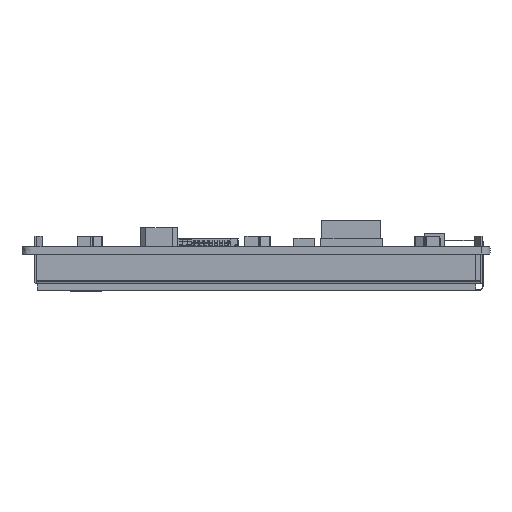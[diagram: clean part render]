
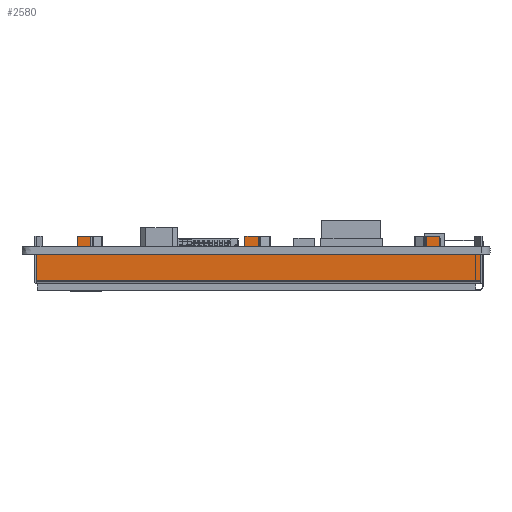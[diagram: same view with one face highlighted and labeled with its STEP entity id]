
A CAD part, left-side view. The second image highlights one B-rep face of the part: STEP entity #2580.
In plain terms, the highlighted planar face has unit normal (-1, 0, 0).
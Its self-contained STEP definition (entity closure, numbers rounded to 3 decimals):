
#2580=ADVANCED_FACE('',(#4897),#3631,.F.);
#3631=PLANE('',#28226);
#4897=FACE_OUTER_BOUND('',#6287,.T.);
#6287=EDGE_LOOP('',(#13445,#13446,#13447,#13448,#13449,#13450,#13451,#13452,
#13453,#13454,#13455,#13456,#13457,#13458,#13459,#13460,#13461,#13462,#13463));
#13445=ORIENTED_EDGE('',*,*,#20087,.T.);
#13446=ORIENTED_EDGE('',*,*,#20098,.T.);
#13447=ORIENTED_EDGE('',*,*,#20099,.F.);
#13448=ORIENTED_EDGE('',*,*,#20100,.T.);
#13449=ORIENTED_EDGE('',*,*,#20101,.F.);
#13450=ORIENTED_EDGE('',*,*,#20085,.T.);
#13451=ORIENTED_EDGE('',*,*,#20102,.T.);
#13452=ORIENTED_EDGE('',*,*,#20103,.F.);
#13453=ORIENTED_EDGE('',*,*,#20104,.F.);
#13454=ORIENTED_EDGE('',*,*,#20105,.T.);
#13455=ORIENTED_EDGE('',*,*,#20093,.T.);
#13456=ORIENTED_EDGE('',*,*,#20106,.T.);
#13457=ORIENTED_EDGE('',*,*,#20107,.F.);
#13458=ORIENTED_EDGE('',*,*,#20108,.F.);
#13459=ORIENTED_EDGE('',*,*,#20109,.T.);
#13460=ORIENTED_EDGE('',*,*,#20097,.T.);
#13461=ORIENTED_EDGE('',*,*,#20110,.F.);
#13462=ORIENTED_EDGE('',*,*,#20111,.F.);
#13463=ORIENTED_EDGE('',*,*,#20112,.T.);
#16558=VERTEX_POINT('',#42179);
#16560=VERTEX_POINT('',#42183);
#16561=VERTEX_POINT('',#42187);
#16563=VERTEX_POINT('',#42190);
#16566=VERTEX_POINT('',#42197);
#16568=VERTEX_POINT('',#42201);
#16570=VERTEX_POINT('',#42206);
#16572=VERTEX_POINT('',#42210);
#16573=VERTEX_POINT('',#42214);
#16574=VERTEX_POINT('',#42216);
#16575=VERTEX_POINT('',#42218);
#16576=VERTEX_POINT('',#42221);
#16577=VERTEX_POINT('',#42223);
#16578=VERTEX_POINT('',#42225);
#16579=VERTEX_POINT('',#42228);
#16580=VERTEX_POINT('',#42230);
#16581=VERTEX_POINT('',#42232);
#16582=VERTEX_POINT('',#42235);
#16583=VERTEX_POINT('',#42237);
#20085=EDGE_CURVE('',#16558,#16560,#23134,.T.);
#20087=EDGE_CURVE('',#16563,#16561,#23136,.T.);
#20093=EDGE_CURVE('',#16566,#16568,#23142,.T.);
#20097=EDGE_CURVE('',#16570,#16572,#23146,.T.);
#20098=EDGE_CURVE('',#16561,#16573,#23147,.T.);
#20099=EDGE_CURVE('',#16574,#16573,#23148,.T.);
#20100=EDGE_CURVE('',#16574,#16575,#23149,.T.);
#20101=EDGE_CURVE('',#16558,#16575,#23150,.T.);
#20102=EDGE_CURVE('',#16560,#16576,#23151,.T.);
#20103=EDGE_CURVE('',#16577,#16576,#23152,.T.);
#20104=EDGE_CURVE('',#16578,#16577,#23153,.T.);
#20105=EDGE_CURVE('',#16578,#16566,#23154,.T.);
#20106=EDGE_CURVE('',#16568,#16579,#23155,.T.);
#20107=EDGE_CURVE('',#16580,#16579,#23156,.T.);
#20108=EDGE_CURVE('',#16581,#16580,#23157,.T.);
#20109=EDGE_CURVE('',#16581,#16570,#23158,.T.);
#20110=EDGE_CURVE('',#16582,#16572,#23159,.T.);
#20111=EDGE_CURVE('',#16583,#16582,#23160,.T.);
#20112=EDGE_CURVE('',#16583,#16563,#23161,.T.);
#23134=LINE('',#42184,#26119);
#23136=LINE('',#42189,#26121);
#23142=LINE('',#42202,#26127);
#23146=LINE('',#42211,#26131);
#23147=LINE('',#42213,#26132);
#23148=LINE('',#42215,#26133);
#23149=LINE('',#42217,#26134);
#23150=LINE('',#42219,#26135);
#23151=LINE('',#42220,#26136);
#23152=LINE('',#42222,#26137);
#23153=LINE('',#42224,#26138);
#23154=LINE('',#42226,#26139);
#23155=LINE('',#42227,#26140);
#23156=LINE('',#42229,#26141);
#23157=LINE('',#42231,#26142);
#23158=LINE('',#42233,#26143);
#23159=LINE('',#42234,#26144);
#23160=LINE('',#42236,#26145);
#23161=LINE('',#42238,#26146);
#26119=VECTOR('',#34287,1.);
#26121=VECTOR('',#34291,1.);
#26127=VECTOR('',#34299,1.);
#26131=VECTOR('',#34305,1.);
#26132=VECTOR('',#34308,1.);
#26133=VECTOR('',#34309,1.);
#26134=VECTOR('',#34310,1.);
#26135=VECTOR('',#34311,1.);
#26136=VECTOR('',#34312,1.);
#26137=VECTOR('',#34313,1.);
#26138=VECTOR('',#34314,1.);
#26139=VECTOR('',#34315,1.);
#26140=VECTOR('',#34316,1.);
#26141=VECTOR('',#34317,1.);
#26142=VECTOR('',#34318,1.);
#26143=VECTOR('',#34319,1.);
#26144=VECTOR('',#34320,1.);
#26145=VECTOR('',#34321,1.);
#26146=VECTOR('',#34322,1.);
#28226=AXIS2_PLACEMENT_3D('',#42239,#34323,#34324);
#34287=DIRECTION('',(0.,1.,0.));
#34291=DIRECTION('',(0.,1.,0.));
#34299=DIRECTION('',(0.,1.,0.));
#34305=DIRECTION('',(0.,1.,0.));
#34308=DIRECTION('',(0.,0.,1.));
#34309=DIRECTION('',(0.,-1.,0.));
#34310=DIRECTION('',(0.,0.,-1.));
#34311=DIRECTION('',(0.,0.,1.));
#34312=DIRECTION('',(0.,0.,1.));
#34313=DIRECTION('',(0.,0.,-1.));
#34314=DIRECTION('',(0.,-1.,0.));
#34315=DIRECTION('',(0.,0.,-1.));
#34316=DIRECTION('',(0.,0.,1.));
#34317=DIRECTION('',(0.,0.,-1.));
#34318=DIRECTION('',(0.,-1.,0.));
#34319=DIRECTION('',(0.,0.,-1.));
#34320=DIRECTION('',(0.,0.,1.));
#34321=DIRECTION('',(0.,1.,0.));
#34322=DIRECTION('',(0.,0.,1.));
#34323=DIRECTION('',(1.,0.,0.));
#34324=DIRECTION('',(0.,-1.,0.));
#42179=CARTESIAN_POINT('',(435.624,-41.014,-1.6));
#42183=CARTESIAN_POINT('',(435.624,-3.188,-1.6));
#42184=CARTESIAN_POINT('',(435.624,-53.245,-1.6));
#42187=CARTESIAN_POINT('',(435.624,-44.038,-1.6));
#42189=CARTESIAN_POINT('',(435.624,-53.245,-1.6));
#42190=CARTESIAN_POINT('',(435.624,-53.245,-1.6));
#42197=CARTESIAN_POINT('',(435.624,-0.18,-1.6));
#42201=CARTESIAN_POINT('',(435.624,34.5,-1.6));
#42202=CARTESIAN_POINT('',(435.624,-53.245,-1.6));
#42206=CARTESIAN_POINT('',(435.624,37.54,-1.6));
#42210=CARTESIAN_POINT('',(435.624,46.775,-1.6));
#42211=CARTESIAN_POINT('',(435.624,-53.245,-1.6));
#42213=CARTESIAN_POINT('',(435.624,-44.038,-1.6));
#42214=CARTESIAN_POINT('',(435.624,-44.038,2.4));
#42215=CARTESIAN_POINT('',(435.624,-41.014,2.4));
#42216=CARTESIAN_POINT('',(435.624,-41.014,2.4));
#42217=CARTESIAN_POINT('',(435.624,-41.014,2.4));
#42218=CARTESIAN_POINT('',(435.624,-41.014,0.));
#42219=CARTESIAN_POINT('',(435.624,-41.014,-1.6));
#42220=CARTESIAN_POINT('',(435.624,-3.188,-1.6));
#42221=CARTESIAN_POINT('',(435.624,-3.188,0.));
#42222=CARTESIAN_POINT('',(435.624,-3.188,2.4));
#42223=CARTESIAN_POINT('',(435.624,-3.188,2.4));
#42224=CARTESIAN_POINT('',(435.624,-0.18,2.4));
#42225=CARTESIAN_POINT('',(435.624,-0.18,2.4));
#42226=CARTESIAN_POINT('',(435.624,-0.18,2.4));
#42227=CARTESIAN_POINT('',(435.624,34.5,-1.6));
#42228=CARTESIAN_POINT('',(435.624,34.5,0.));
#42229=CARTESIAN_POINT('',(435.624,34.5,2.4));
#42230=CARTESIAN_POINT('',(435.624,34.5,2.4));
#42231=CARTESIAN_POINT('',(435.624,37.54,2.4));
#42232=CARTESIAN_POINT('',(435.624,37.54,2.4));
#42233=CARTESIAN_POINT('',(435.624,37.54,2.4));
#42234=CARTESIAN_POINT('',(435.624,46.775,-7.9));
#42235=CARTESIAN_POINT('',(435.624,46.775,-7.9));
#42236=CARTESIAN_POINT('',(435.624,-53.245,-7.9));
#42237=CARTESIAN_POINT('',(435.624,-53.245,-7.9));
#42238=CARTESIAN_POINT('',(435.624,-53.245,-7.9));
#42239=CARTESIAN_POINT('',(435.624,-53.245,-7.9));
